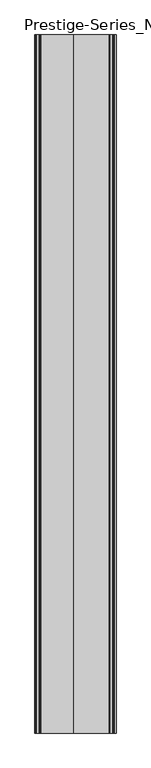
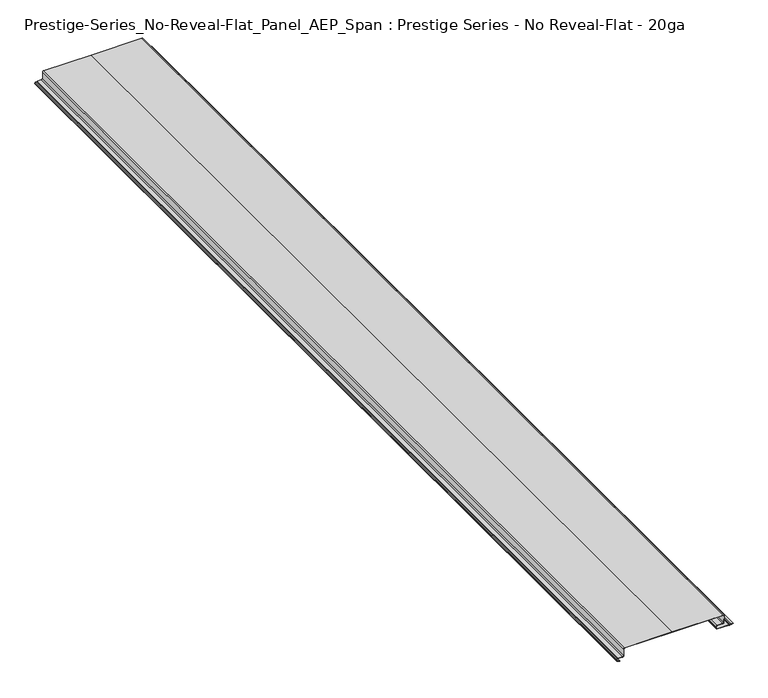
"""IFC4 building model written with IfcOpenShell, lengths in millimetres: proxy geometry, Prestige-Series_No-Reveal-Flat_Panel_AEP_Span : Prestige Series - No Reveal-Flat - 20ga."""

from ifc_helpers import new_model, si_unit, point, frame, frame_2d, origin, place, context, project, spatial, polyline, circle_curve, trimmed, segment, composite_curve, outline, extrude, source, transform, mapped, element, save


def prestige_series_no_reveal_flat_panel_aep_span_prestige_570cf8c1(model_context):
    return source(origin(), model_context, "Body", "SweptSolid", [
        extrude(outline(composite_curve([segment(polyline([(3.7242703, -173.3547211), (0.5644947, -164.0843346), (1.4155751, -163.794247), (4.5753508, -173.0646336)]), True, "CONTINUOUS"), segment(trimmed(circle_curve(frame_2d((6.6151497, -172.369376)), 2.155032), [point((4.5753508, -173.0646336))], [point((6.6828416, -174.5233445))], True, "CARTESIAN"), True, "CONTINUOUS"), segment(trimmed(circle_curve(frame_2d((6.7477884, -172.3692918)), 2.1550316), [point((6.6828416, -174.5233445))], [point((8.7773217, -173.0939681))], True, "CARTESIAN"), True, "CONTINUOUS"), segment(polyline([(8.7773217, -173.0939681), (9.8066494, -170.2112258)]), True, "CONTINUOUS"), segment(trimmed(circle_curve(frame_2d((4.6674035, -168.3761786)), 5.4570365), [point((9.8066494, -170.2112258))], [point((10.12444, -168.3761786))], True, "CARTESIAN"), True, "CONTINUOUS"), segment(polyline([(10.12444, -168.3761786), (10.12444, -155.8368238)]), True, "CONTINUOUS"), segment(trimmed(circle_curve(frame_2d((14.5734787, -155.9462867)), 4.4503851), [point((10.12444, -155.8368238))], [point((14.2412483, -151.5083197))], False, "CARTESIAN"), True, "CONTINUOUS"), segment(polyline([(14.2412483, -151.5083197), (33.9789371, -151.4934895)]), True, "CONTINUOUS"), segment(trimmed(circle_curve(frame_2d((34.1702717, -148.4689672)), 3.0305683), [point((33.9789371, -151.4934895))], [point((37.20084, -148.4689672))], True, "CARTESIAN"), True, "CONTINUOUS"), segment(polyline([(37.20084, -148.4689672), (37.20084, -5.3487879), (37.20084, 148.4540042)]), True, "CONTINUOUS"), segment(trimmed(circle_curve(frame_2d((34.1568093, 148.4540042)), 3.0440307), [point((37.20084, 148.4540042))], [point((33.9974885, 151.4938626))], True, "CARTESIAN"), True, "CONTINUOUS"), segment(polyline([(33.9974885, 151.4938626), (14.8582693, 150.4907645)]), True, "CONTINUOUS"), segment(trimmed(circle_curve(frame_2d((15.0175901, 147.4509066)), 3.0440301), [point((14.8582693, 150.4907645))], [point((11.97356, 147.4509066))], True, "CARTESIAN"), True, "CONTINUOUS"), segment(polyline([(11.97356, 147.4509066), (11.97356, 131.7216484)]), True, "CONTINUOUS"), segment(trimmed(circle_curve(frame_2d((7.9055915, 131.7216484)), 4.0679685), [point((11.97356, 131.7216484))], [point((7.9055915, 127.6536799))], False, "CARTESIAN"), True, "CONTINUOUS"), segment(polyline([(7.9055915, 127.6536799), (3.9308085, 127.6536799)]), True, "CONTINUOUS"), segment(trimmed(circle_curve(frame_2d((3.9308085, 131.7216484)), 4.0679685), [point((3.9308085, 127.6536799))], [point((-0.13716, 131.7216484))], False, "CARTESIAN"), True, "CONTINUOUS"), segment(polyline([(-0.13716, 131.7216484), (-0.13716, 165.2164818), (-0.7731706, 166.7747019)]), True, "CONTINUOUS"), segment(trimmed(circle_curve(frame_2d((1.5366294, 167.7174809)), 2.4947962), [point((-0.7731706, 166.7747019))], [point((-0.7731706, 168.6602599))], False, "CARTESIAN"), True, "CONTINUOUS"), segment(polyline([(-0.7731706, 168.6602599), (-0.13716, 170.21848), (-0.13716, 174.2421311), (1.1293858, 178.968983), (1.9979081, 178.736265), (0.762, 174.1237554), (0.762, 170.0420429), (0.0602691, 168.3228086)]), True, "CONTINUOUS"), segment(trimmed(circle_curve(frame_2d((1.5433165, 167.7174809)), 1.6018275), [point((0.0602691, 168.3228086))], [point((0.0602691, 167.1121532))], True, "CARTESIAN"), True, "CONTINUOUS"), segment(polyline([(0.0602691, 167.1121532), (0.762, 165.3929189), (0.762, 131.7278397)]), True, "CONTINUOUS"), segment(trimmed(circle_curve(frame_2d((3.9369998, 131.7278397)), 3.1749998), [point((0.762, 131.7278397))], [point((3.9369998, 128.5528399))], True, "CARTESIAN"), True, "CONTINUOUS"), segment(polyline([(3.9369998, 128.5528399), (7.8994002, 128.5528399)]), True, "CONTINUOUS"), segment(trimmed(circle_curve(frame_2d((7.8994002, 131.7278397)), 3.1749998), [point((7.8994002, 128.5528399))], [point((11.0744, 131.7278397))], True, "CARTESIAN"), True, "CONTINUOUS"), segment(polyline([(11.0744, 131.7278397), (11.0744, 147.4567819)]), True, "CONTINUOUS"), segment(trimmed(circle_curve(frame_2d((15.0113988, 147.4567819)), 3.9369988), [point((11.0744, 147.4567819))], [point((14.8053411, 151.3883846))], False, "CARTESIAN"), True, "CONTINUOUS"), segment(polyline([(14.8053411, 151.3883846), (33.9569429, 152.3921317)]), True, "CONTINUOUS"), segment(trimmed(circle_curve(frame_2d((34.1630006, 148.4605284)), 3.9369994), [point((33.9569429, 152.3921317))], [point((38.1, 148.4605284))], False, "CARTESIAN"), True, "CONTINUOUS"), segment(polyline([(38.1, 148.4605284), (38.1, -5.3487879), (38.1, -148.4689632)]), True, "CONTINUOUS"), segment(trimmed(circle_curve(frame_2d((34.1764629, -148.4689632)), 3.9235371), [point((38.1, -148.4689632))], [point((34.1794109, -152.3924992))], False, "CARTESIAN"), True, "CONTINUOUS"), segment(polyline([(34.1794109, -152.3924992), (14.2327776, -152.4074863)]), True, "CONTINUOUS"), segment(trimmed(circle_curve(frame_2d((14.576754, -155.94528)), 3.5544766), [point((14.2327776, -152.4074863))], [point((11.0236, -155.8483231))], True, "CARTESIAN"), True, "CONTINUOUS"), segment(polyline([(11.0236, -155.8483231), (11.0236, -168.3772508)]), True, "CONTINUOUS"), segment(trimmed(circle_curve(frame_2d((4.6735948, -168.3772508)), 6.3500052), [point((11.0236, -168.3772508))], [point((10.6538074, -170.5125782))], False, "CARTESIAN"), True, "CONTINUOUS"), segment(polyline([(10.6538074, -170.5125782), (9.6241191, -173.3963302)]), True, "CONTINUOUS"), segment(trimmed(circle_curve(frame_2d((6.7536191, -172.3713738)), 3.0480004), [point((9.6241191, -173.3963302))], [point((6.6814543, -175.4185197))], False, "CARTESIAN"), True, "CONTINUOUS"), segment(trimmed(circle_curve(frame_2d((6.6092895, -172.3713734)), 3.0480007), [point((6.6814543, -175.4185197))], [point((3.7242703, -173.3547211))], False, "CARTESIAN"), True, "CONTINUOUS")], self_intersect=False)), frame((0.0, -3048.0, 0.0), z_axis=(0.0, 1.0, 0.0), x_axis=(0.0, 0.0, 1.0)), (0.0, 0.0, 1.0), 3048.0),
    ])


if __name__ == "__main__":
    model = new_model("IFC4")
    model_context = context("Model", 3, world=origin())
    ifc_project = project(units=[si_unit("LENGTHUNIT", "METRE", prefix="MILLI")], contexts=[model_context])
    site = spatial("IfcSite", under=ifc_project)
    building = spatial("IfcBuilding", under=site)
    placement = place(None, origin())
    prestige_series_no_reveal_flat_panel_aep_span_prestige_shape = prestige_series_no_reveal_flat_panel_aep_span_prestige_570cf8c1(model_context)
    element("IfcBuildingElementProxy", 1, Name="Prestige-Series_No-Reveal-Flat_Panel_AEP_Span : Prestige Series - No Reveal-Flat - 20ga", ObjectType="Prestige-Series_No-Reveal-Flat_Panel_AEP_Span : Prestige Series - No Reveal-Flat - 20ga", at=placement, inside=building, context=model_context, shape_type="MappedRepresentation", body=[
        mapped(prestige_series_no_reveal_flat_panel_aep_span_prestige_shape, transform((0.0, 0.0, 0.0), x_axis=(1.0, 0.0, 0.0), y_axis=(0.0, 1.0, 0.0), z_axis=(0.0, 0.0, 1.0))),
    ])
    save(model, "model.ifc")
